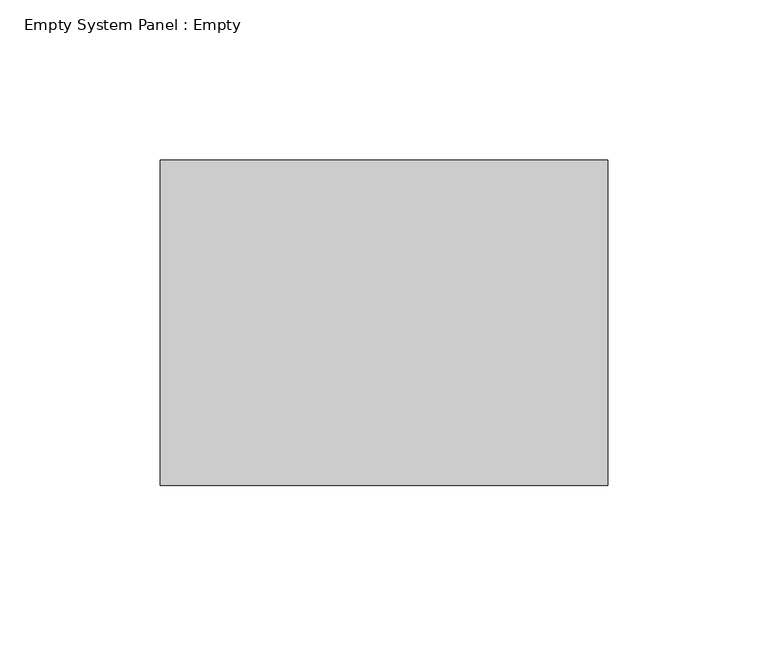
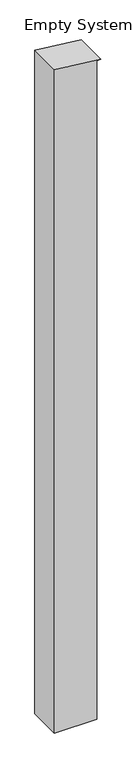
"""IFC4 building model written with IfcOpenShell, lengths in millimetres: plate geometry, Empty System Panel : Empty."""

import ifcopenshell
import ifcopenshell.guid

model = None  # the IFC model being written
_history = None  # IfcOwnerHistory: only IFC2X3 demands one
_inside = {}  # id of a spatial element -> (the spatial element, [elements in it])
_under = {}  # id of a project, library or spatial element -> (it, [spatial elements below it])
_declared = {}  # id of a project -> (the project, [libraries it declares])
_typed = {}  # id of a type object -> (the type object, [elements of that type])
_made_of = {}  # id of a material, layer set ... -> (it, [elements and type objects made of it])


def new_model(schema):
    """Start an empty IFC model of exactly this schema.

    Asked for "IFC4X3", IfcOpenShell would pick the latest addendum, in which some entities
    have other attributes; the version numbers below select the first issue.
    IFC2X3 requires an IfcOwnerHistory on every rooted entity: one is made here for all.
    """
    global model, _history
    if schema == "IFC4X3":
        model = ifcopenshell.file(schema_version=(4, 3, 0, 0))
    else:
        model = ifcopenshell.file(schema=schema)
    _inside.clear()
    _under.clear()
    _declared.clear()
    _typed.clear()
    _made_of.clear()
    _history = None
    if model.schema == "IFC2X3":
        org = make("IfcOrganization", Name="unknown")
        user = make(
            "IfcPersonAndOrganization",
            ThePerson=make("IfcPerson", FamilyName="unknown"),
            TheOrganization=org,
        )
        app = make(
            "IfcApplication",
            ApplicationDeveloper=org,
            Version="unknown",
            ApplicationFullName="unknown",
            ApplicationIdentifier="unknown",
        )
        _history = make(
            "IfcOwnerHistory",
            OwningUser=user,
            OwningApplication=app,
            ChangeAction="ADDED",
            CreationDate=0,
        )
    return model


def make(cls, **values):
    """One entity of the class cls with the attributes given. An attribute that is None is left unset."""
    return model.create_entity(
        cls, **{name: value for name, value in values.items() if value is not None}
    )


def rooted(cls, **values):
    """An entity with a GlobalId (a new one), such as an element, a storey or a relation."""
    return make(cls, GlobalId=ifcopenshell.guid.new(), OwnerHistory=_history, **values)


def si_unit(unit_type, name, prefix=None):
    """IfcSIUnit, for example si_unit("LENGTHUNIT", "METRE", prefix="MILLI")."""
    return make("IfcSIUnit", UnitType=unit_type, Prefix=prefix, Name=name)


def assignment(units):
    """IfcUnitAssignment: the units of a project."""
    return None if units is None else make("IfcUnitAssignment", Units=units)


def point(xyz):
    """IfcCartesianPoint."""
    return None if xyz is None else make("IfcCartesianPoint", Coordinates=xyz)


def direction(xyz):
    """IfcDirection."""
    return None if xyz is None else make("IfcDirection", DirectionRatios=xyz)


def frame(location, z_axis=None, x_axis=None):
    """IfcAxis2Placement3D, a coordinate frame: its origin and axes. An axis left out is left unset."""
    return make(
        "IfcAxis2Placement3D",
        Location=point(location),
        Axis=direction(z_axis),
        RefDirection=direction(x_axis),
    )


def origin():
    """The frame at (0, 0, 0) with its axes left unset."""
    return frame((0.0, 0.0, 0.0))


def place(relative_to, where):
    """IfcLocalPlacement: puts the frame where relative to a parent placement (None: the world)."""
    return make(
        "IfcLocalPlacement", PlacementRelTo=relative_to, RelativePlacement=where
    )


def context(
    kind, dimensions, precision=None, world=None, true_north=None, identifier=None
):
    """IfcGeometricRepresentationContext, for example the 3D "Model" context."""
    return make(
        "IfcGeometricRepresentationContext",
        ContextIdentifier=identifier,
        ContextType=kind,
        CoordinateSpaceDimension=dimensions,
        Precision=precision,
        WorldCoordinateSystem=world,
        TrueNorth=true_north,
    )


def project(units=None, contexts=None):
    """IfcProject with its units and contexts."""
    return rooted(
        "IfcProject",
        Name="project",
        RepresentationContexts=contexts,
        UnitsInContext=assignment(units),
    )


def spatial(cls, under=None, at=None, **own):
    """A site, building, storey or space (cls), placed at a placement, below another one or the project."""
    s = rooted(cls, ObjectPlacement=at, **own)
    if under is not None:
        _under.setdefault(under.id(), (under, []))[1].append(s)
    return s


def polyline(points):
    """IfcPolyline through the points."""
    return make("IfcPolyline", Points=[point(p) for p in points])


def outline(outer, holes=None, kind="AREA"):
    """IfcArbitraryClosedProfileDef: a profile drawn as a closed curve; with holes, ...WithVoids."""
    if holes is None:
        return make("IfcArbitraryClosedProfileDef", ProfileType=kind, OuterCurve=outer)
    return make(
        "IfcArbitraryProfileDefWithVoids",
        ProfileType=kind,
        OuterCurve=outer,
        InnerCurves=holes,
    )


def extrude(swept, where, along, depth):
    """IfcExtrudedAreaSolid: the profile swept, set in the frame where, extruded along a direction by depth."""
    return make(
        "IfcExtrudedAreaSolid",
        SweptArea=swept,
        Position=where,
        ExtrudedDirection=direction(along),
        Depth=depth,
    )


def shape(context_of_items, identifier, shape_type, items):
    """IfcShapeRepresentation: the items that make up one representation, for example the "Body"."""
    return make(
        "IfcShapeRepresentation",
        ContextOfItems=context_of_items,
        RepresentationIdentifier=identifier,
        RepresentationType=shape_type,
        Items=items,
    )


def source(mapping_origin, context_of_items, identifier, shape_type, items):
    """IfcRepresentationMap: a shape defined once, which mapped items show again and again."""
    return make(
        "IfcRepresentationMap",
        MappingOrigin=mapping_origin,
        MappedRepresentation=shape(context_of_items, identifier, shape_type, items),
    )


def transform(
    local_origin,
    x_axis=None,
    y_axis=None,
    z_axis=None,
    scale=None,
    scale2=None,
    scale3=None,
    uniform=True,
):
    """IfcCartesianTransformationOperator3D, or its non-uniform kind. x_axis, y_axis, z_axis: its Axis1, 2, 3."""
    if uniform:
        return make(
            "IfcCartesianTransformationOperator3D",
            Axis1=direction(x_axis),
            Axis2=direction(y_axis),
            LocalOrigin=point(local_origin),
            Scale=scale,
            Axis3=direction(z_axis),
        )
    return make(
        "IfcCartesianTransformationOperator3DnonUniform",
        Axis1=direction(x_axis),
        Axis2=direction(y_axis),
        LocalOrigin=point(local_origin),
        Scale=scale,
        Axis3=direction(z_axis),
        Scale2=scale2,
        Scale3=scale3,
    )


def mapped(mapping_source, mapping_target):
    """IfcMappedItem: shows the shape of a source again, moved by a transform."""
    return make(
        "IfcMappedItem", MappingSource=mapping_source, MappingTarget=mapping_target
    )


def made_of(thing, what):
    """Note that an element or type object is made of a material, layer set ...; save() writes the relation."""
    if what is not None:
        _made_of.setdefault(what.id(), (what, []))[1].append(thing)
    return thing


def element(
    cls,
    number,
    at=None,
    inside=None,
    cuts=None,
    type_object=None,
    material=None,
    context=None,
    identifier="Body",
    shape_type=None,
    held_by="IfcProductDefinitionShape",
    body=None,
    shapes=None,
    **own,
):
    """One element of the class cls, such as IfcWall. Its Tag is "e" and its number.

    at: its placement. inside: the storey or other place that contains it. cuts: it is an
    opening in that element (IfcRelVoidsElement). A single representation is given by context,
    identifier, shape_type and body (its items); several are given by shapes. held_by: the class
    of the entity that holds the representations. save() writes the other relations.
    """
    e = rooted(cls, Tag="e%d" % number, ObjectPlacement=at, **own)
    if body is not None:
        shapes = [shape(context, identifier, shape_type, body)]
    if shapes is not None:
        e.Representation = make(held_by, Representations=shapes)
    if inside is not None:
        _inside.setdefault(inside.id(), (inside, []))[1].append(e)
    if cuts is not None:
        rooted(
            "IfcRelVoidsElement", RelatingBuildingElement=cuts, RelatedOpeningElement=e
        )
    if type_object is not None:
        _typed.setdefault(type_object.id(), (type_object, []))[1].append(e)
    return made_of(e, material)


def aggregate(whole, parts):
    """IfcRelAggregates: a whole, such as a stair, and the parts it consists of."""
    return rooted("IfcRelAggregates", RelatingObject=whole, RelatedObjects=parts)


def save(model, path):
    """Write the relations noted so far, then the file.

    IfcRelAggregates (storeys below a building ...), IfcRelContainedInSpatialStructure (elements
    in a storey), IfcRelDefinesByType, IfcRelAssociatesMaterial and IfcRelDeclares: one each for
    every whole, place, type object, material and project.
    """
    for whole, parts in _under.values():
        aggregate(whole, parts)
    for where, things in _inside.values():
        rooted(
            "IfcRelContainedInSpatialStructure",
            RelatedElements=things,
            RelatingStructure=where,
        )
    for kind, things in _typed.values():
        rooted("IfcRelDefinesByType", RelatedObjects=things, RelatingType=kind)
    for what, things in _made_of.values():
        rooted("IfcRelAssociatesMaterial", RelatedObjects=things, RelatingMaterial=what)
    for by, libraries in _declared.values():
        rooted("IfcRelDeclares", RelatingContext=by, RelatedDefinitions=libraries)
    model.write(path)


def empty_system_panel_empty_2b1823a8(model_context):
    return source(origin(), model_context, "Body", "SweptSolid", [
        extrude(outline(polyline([(0.0, -69.85), (0.0, 57.15), (2093.6215425, 57.15), (2093.6215425, 69.85), (2109.2467325, -69.85), (0.0, -69.85)])), frame((0.0, -50.8, 0.0), z_axis=(0.0, 1.0, 0.0), x_axis=(0.0, 0.0, 1.0)), (0.0, 0.0, 1.0), 101.6),
    ])


if __name__ == "__main__":
    model = new_model("IFC4")
    model_context = context("Model", 3, world=origin())
    ifc_project = project(units=[si_unit("LENGTHUNIT", "METRE", prefix="MILLI")], contexts=[model_context])
    site = spatial("IfcSite", under=ifc_project)
    building = spatial("IfcBuilding", under=site)
    placement = place(None, origin())
    empty_system_panel_empty_shape = empty_system_panel_empty_2b1823a8(model_context)
    element("IfcPlate", 1, ObjectType="Empty System Panel : Empty", at=placement, inside=building, context=model_context, shape_type="MappedRepresentation", body=[
        mapped(empty_system_panel_empty_shape, transform((0.0, 0.0, 0.0), x_axis=(1.0, 0.0, 0.0), y_axis=(0.0, 1.0, 0.0), z_axis=(0.0, 0.0, 1.0))),
    ])
    save(model, "model.ifc")
